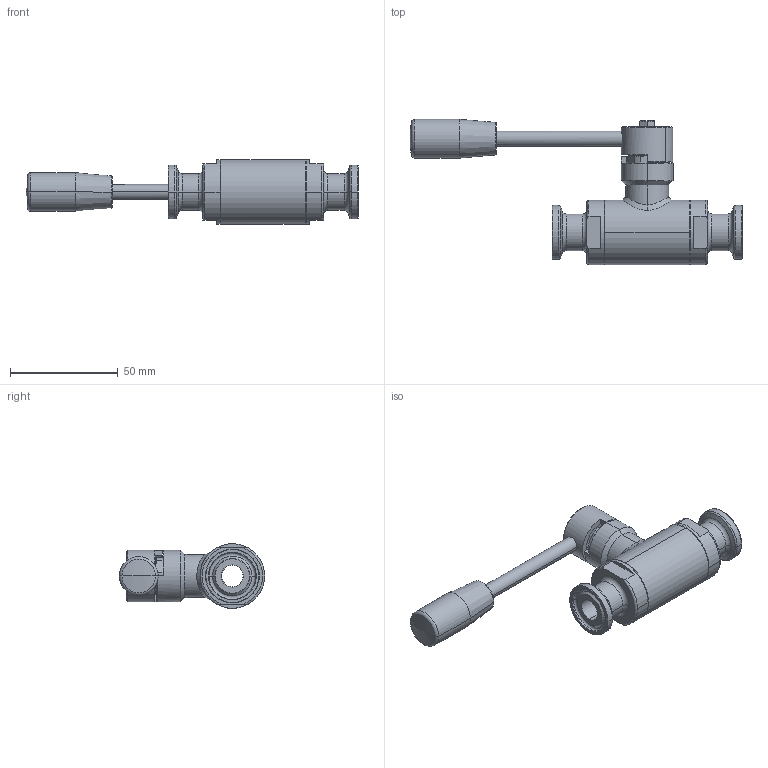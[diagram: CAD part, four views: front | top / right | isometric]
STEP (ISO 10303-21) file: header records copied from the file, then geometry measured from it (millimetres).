
FILE_DESCRIPTION((''),'2;1');
FILE_NAME('10013061110_SW0002','2025-05-26T13:43:06',('tecnico2'),('CDM Tecnoconsulting'),'CREO PARAMETRIC BY PTC INC, 2024063','CREO PARAMETRIC BY PTC INC, 2024063','');
FILE_SCHEMA(('CONFIG_CONTROL_DESIGN','SHAPE_APPEARANCE_LAYERS_GROUPS'));
Length unit declared in the file: millimetre
Products named in the file (1): 10013061110_SW0002
Bounding box: 154 x 67.45 x 30 mm (x, y, z)
Volume: 63563.7 mm3; surface area: 27094.7 mm2
Topology: 1 solids, 1 shells, 791 faces, 2113 edges, 1343 vertices
Faces by surface type: plane 320, extrusion 150, cylinder 132, cone 98, torus 50, bspline 35, sphere 6
Entity records: 44090 total; most frequent: CARTESIAN_POINT 16491, ORIENTED_EDGE 4190, DIRECTION 3391, PRESENTATION_STYLE_ASSIGNMENT 2493, STYLED_ITEM 2190, CURVE_STYLE 2189, EDGE_CURVE 2095, VERTEX_POINT 1343
